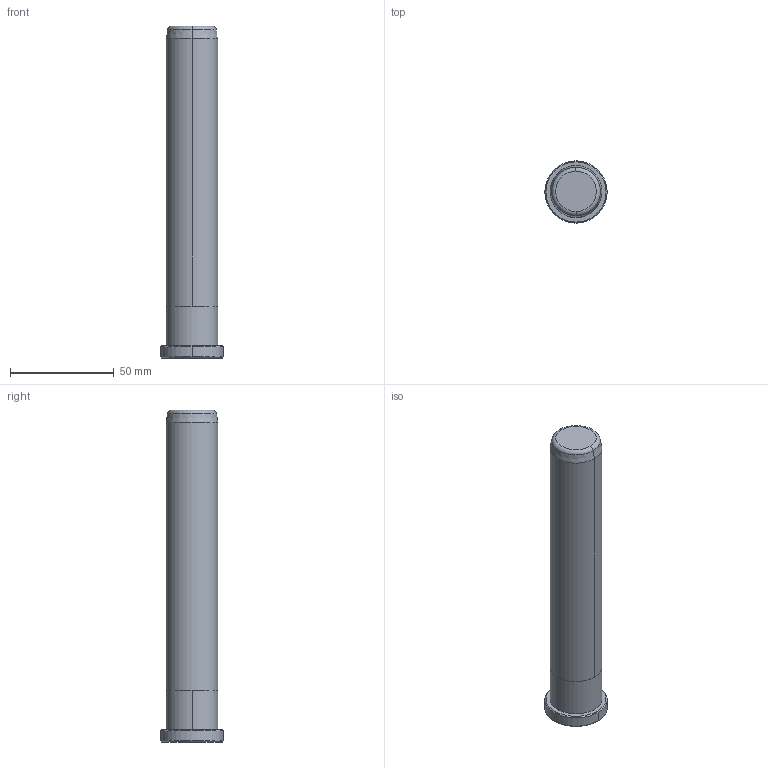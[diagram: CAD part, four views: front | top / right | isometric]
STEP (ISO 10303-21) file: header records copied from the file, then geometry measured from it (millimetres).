
FILE_DESCRIPTION((''),'2;1');
FILE_NAME('B80825160','2018-01-06T',('MANU'),(''),'PRO/ENGINEER BY PARAMETRIC TECHNOLOGY CORPORATION, 2012130','PRO/ENGINEER BY PARAMETRIC TECHNOLOGY CORPORATION, 2012130','');
FILE_SCHEMA(('CONFIG_CONTROL_DESIGN'));
Length unit declared in the file: millimetre
Products named in the file (1): B80825160
Bounding box: 30 x 30 x 160 mm (x, y, z)
Volume: 79545.6 mm3; surface area: 13885.2 mm2
Topology: 1 solids, 1 shells, 18 faces, 34 edges, 20 vertices
Faces by surface type: cone 6, cylinder 6, plane 4, torus 2
Entity records: 494 total; most frequent: DIRECTION 92, CARTESIAN_POINT 72, ORIENTED_EDGE 68, AXIS2_PLACEMENT_3D 40, EDGE_CURVE 34, CIRCLE 22, VERTEX_POINT 20, EDGE_LOOP 20
